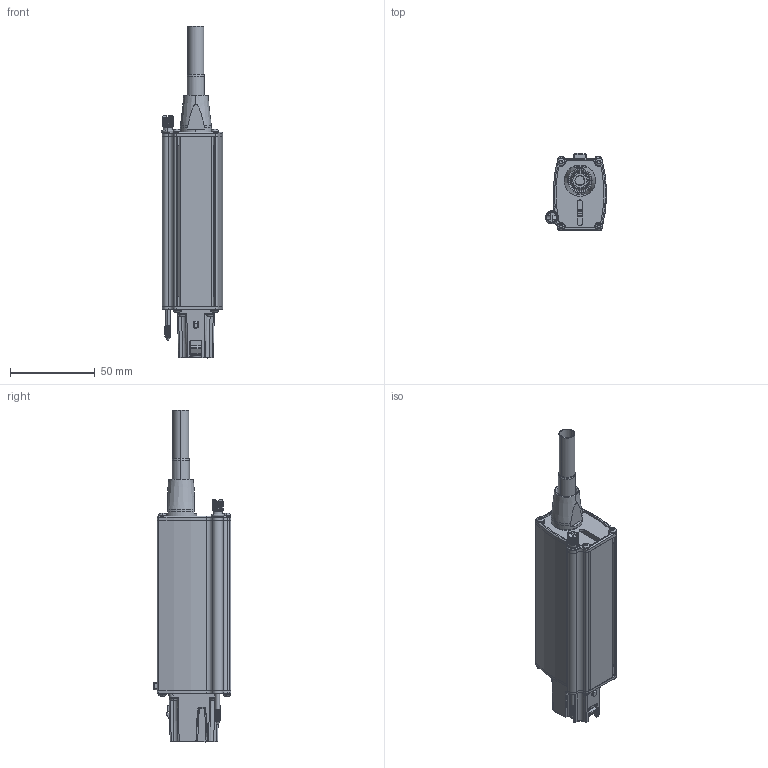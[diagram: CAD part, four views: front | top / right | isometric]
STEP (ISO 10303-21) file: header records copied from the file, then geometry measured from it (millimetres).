
FILE_DESCRIPTION((''),'2;1');
FILE_NAME('MASTER_CONTROL-BOX_SGH_ASM','2022-02-28T10:34:59',('mthomps2'),(''),'CREO PARAMETRIC BY PTC INC, 2019080','CREO PARAMETRIC BY PTC INC, 2019080','');
FILE_SCHEMA(('CONFIG_CONTROL_DESIGN','SHAPE_APPEARANCE_LAYERS_GROUPS'));
Length unit declared in the file: inch
Products named in the file (27): PLATE_INTERFACE-TEKCON_CHT; NOSE_3_HPI; LOCK_3_HPI; 211112500; BUTTON_LOCK_HPI; 211112900; MASTER_TEKCONNECT-COMMON_CHT_ASM; EXTRUSION_CONTROL_WSCREW_SGH; MEMBRANCE_SWTCH_CTRL_SGH; MEMBRANE_ADHESIVE_CNTRL-TOP_SGH; MEMBRANE_SWTCH_CTRL-TOP_SGH_ASM; COVER_CONTROL_MEMBRANE_SGH_ASM; PLATE_END_CONTROL-BOX; SCREW_THMB_2XL_SGH; CONN_BMA-34GHZ_SGH; NUT_BMA_312_HPI; BOOT_CB_SGH; CABLE_MAIN_HT_SHK_SV_SGH; CABLE_CONE_CB_SGH; BRADY_THERMAL_ID_SGH; CABLE_CONTROL_DRESS_SGH_ASM; NOSE_3_HPI_AF0; NOSE_MOD_HPI_ASK_ASM; SHIM_CONTROLLABEL_SGH; 211037800; 210040600; MASTER_CONTROL-BOX_SGH_ASM
Assembly tree (40 placements, depth 4):
  MASTER_CONTROL-BOX_SGH_ASM
    MASTER_TEKCONNECT-COMMON_CHT_ASM
      PLATE_INTERFACE-TEKCON_CHT
      NOSE_3_HPI
      LOCK_3_HPI
      211112500  x4
      BUTTON_LOCK_HPI
      211112900  x4
    EXTRUSION_CONTROL_WSCREW_SGH
    COVER_CONTROL_MEMBRANE_SGH_ASM
      MEMBRANE_SWTCH_CTRL-TOP_SGH_ASM
        MEMBRANCE_SWTCH_CTRL_SGH
        MEMBRANE_ADHESIVE_CNTRL-TOP_SGH
    PLATE_END_CONTROL-BOX
    SCREW_THMB_2XL_SGH
    211112900  x4
    CABLE_CONTROL_DRESS_SGH_ASM
      CONN_BMA-34GHZ_SGH
      NUT_BMA_312_HPI
      PLATE_END_CONTROL-BOX
      BOOT_CB_SGH
      CABLE_MAIN_HT_SHK_SV_SGH
      CABLE_CONE_CB_SGH
      BRADY_THERMAL_ID_SGH
    NOSE_MOD_HPI_ASK_ASM
      NOSE_3_HPI_AF0
    SHIM_CONTROLLABEL_SGH  x2
    211037800  x2
    210040600  x2
Bounding box: 36.18 x 45.67 x 195.52 mm (x, y, z)
Volume: 42513.1 mm3; surface area: 70809 mm2
Topology: 37 solids, 38 shells, 2861 faces, 7074 edges, 4336 vertices
Faces by surface type: cylinder 1121, plane 927, bspline 451, torus 154, cone 146, sphere 62
Entity records: 104813 total; most frequent: CARTESIAN_POINT 43801, ORIENTED_EDGE 11312, DIRECTION 9981, EDGE_CURVE 5658, AXIS2_PLACEMENT_3D 3746, VERTEX_POINT 3413, PRESENTATION_STYLE_ASSIGNMENT 2912, STYLED_ITEM 2908
